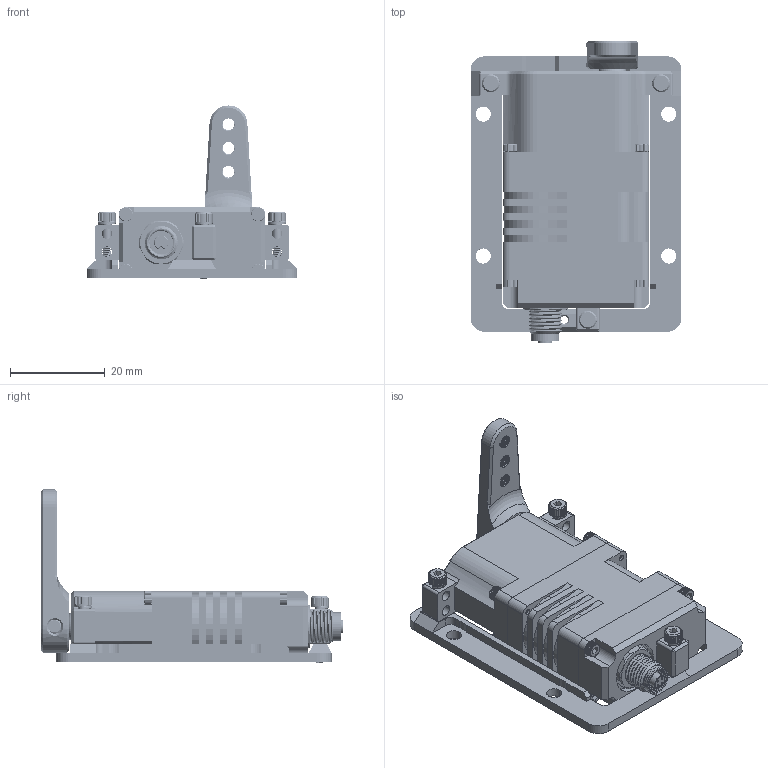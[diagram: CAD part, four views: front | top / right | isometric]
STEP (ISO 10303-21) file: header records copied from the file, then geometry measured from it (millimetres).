
FILE_DESCRIPTION((''),'2;1');
FILE_NAME('SG15BL_ASM','2024-10-10T',('sangmin.kim'),(''),'CREO PARAMETRIC BY PTC INC, 2018360','CREO PARAMETRIC BY PTC INC, 2018360','');
FILE_SCHEMA(('CONFIG_CONTROL_DESIGN'));
Products named in the file (16): SG15M_AL6061_120101020184; SG15T_AL6061_120101010192; SG15L_ALA6061_120101030181; SG15SG5HS-GPS_S45C_12XXXXXXXXXX; SG15SG5-GPS_ASM; SIGNAL_M5_BASE; SIGNAL_M5_NUT; SIGNAL_M5_O-RING; SIGNAL_M5_ASM; 120201000156_SUS_HSH_M1_6XL8; SG15TR_AL6061_120106020158; 12XXX_SUS_HSH_M2XL12; SW_M2_SUS304_DIN7980; MIS5-A_AL2011_120217000175; 120201000114_SC_M3XL3; SG15BL_ASM
Assembly tree (27 placements, depth 3):
  SG15BL_ASM
    SG15M_AL6061_120101020184
    SG15T_AL6061_120101010192
    SG15L_ALA6061_120101030181
    SG15SG5-GPS_ASM
      SG15SG5HS-GPS_S45C_12XXXXXXXXXX
    SIGNAL_M5_ASM
      SIGNAL_M5_BASE
      SIGNAL_M5_NUT
      SIGNAL_M5_O-RING
    120201000156_SUS_HSH_M1_6XL8  x8
    SG15TR_AL6061_120106020158
    12XXX_SUS_HSH_M2XL12  x3
    SW_M2_SUS304_DIN7980  x3
    MIS5-A_AL2011_120217000175
    120201000114_SC_M3XL3  x2
Bounding box: 44.6 x 64 x 36.6 mm (x, y, z)
Volume: 24222.2 mm3; surface area: 15837.7 mm2
Topology: 25 solids, 25 shells, 2821 faces, 7922 edges, 5166 vertices
Faces by surface type: cylinder 1240, plane 1175, bspline 236, cone 157, torus 9, sphere 2, extrusion 2
Entity records: 74851 total; most frequent: CARTESIAN_POINT 34440, ORIENTED_EDGE 6470, DIRECTION 5390, PRESENTATION_STYLE_ASSIGNMENT 3376, STYLED_ITEM 3294, CURVE_STYLE 3235, EDGE_CURVE 3235, VERTEX_POINT 2079
